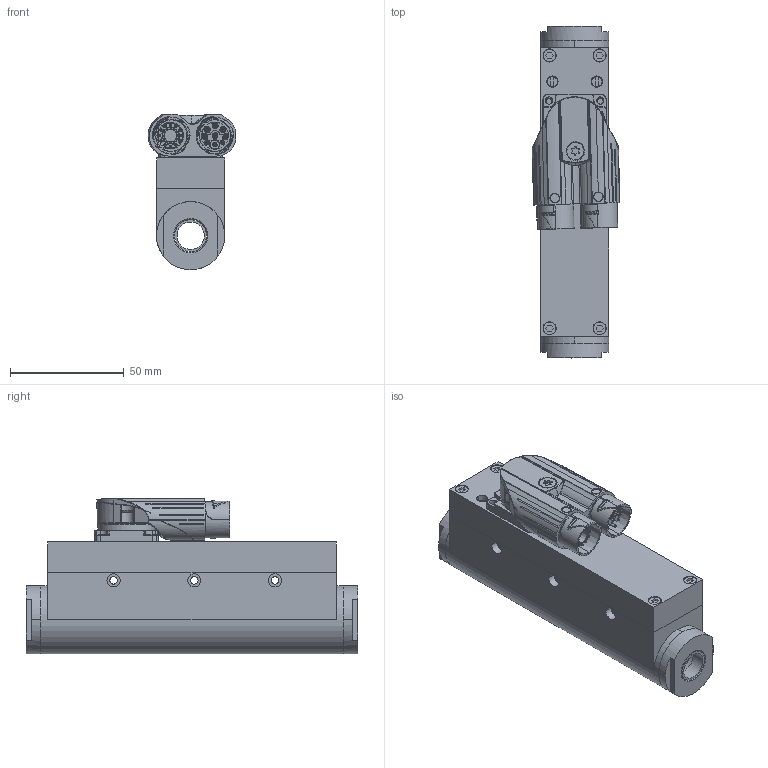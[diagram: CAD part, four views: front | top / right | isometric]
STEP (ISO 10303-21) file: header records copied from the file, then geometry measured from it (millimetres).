
FILE_DESCRIPTION(('STEP AP214'),'1');
FILE_NAME('ETT-C025SCSNC.stp','2015-01-14T15:37:31',(' '),(' '),'Spatial InterOp 3D',' ',' ');
FILE_SCHEMA(('automotive_design'));
Length unit declared in the file: millimetre
Products named in the file (13): ETT-C025SCSNC; tUBO PARKER; tappo 1; xsm-1214-06; Ass scatola  CONNETTORE  vuoto; Scatola 3 sotto 2; Scatola 3 CMC connettore; Vite M3scheda -tappo; Vite M3 scatola; pressacavo 3; VITE M2,5; Connettore A y
Assembly tree (22 placements, depth 3):
  ETT-C025SCSNC
    tUBO PARKER
    tappo 1
    tappo 1
    xsm-1214-06  x2
    Ass scatola  CONNETTORE  vuoto
      Scatola 3 sotto 2
      Scatola 3 CMC connettore
      Vite M3scheda -tappo  x2
      Vite M3 scatola  x4
      pressacavo 3
      VITE M2,5  x2
    Connettore A y
    #0  x4
Bounding box: 38.67 x 146 x 68.45 mm (x, y, z)
Volume: 91106.3 mm3; surface area: 76721.4 mm2
Topology: 16 solids, 1913 shells, 2212 faces, 10384 edges, 10084 vertices
Faces by surface type: cylinder 973, plane 518, bspline 283, torus 246, cone 81, extrusion 68, sphere 43
Entity records: 155459 total; most frequent: CARTESIAN_POINT 62865, DIRECTION 15581, ORIENTED_EDGE 10668, EDGE_CURVE 10108, VERTEX_POINT 9926, AXIS2_PLACEMENT_3D 6154, CIRCLE 4045, VECTOR 3273
